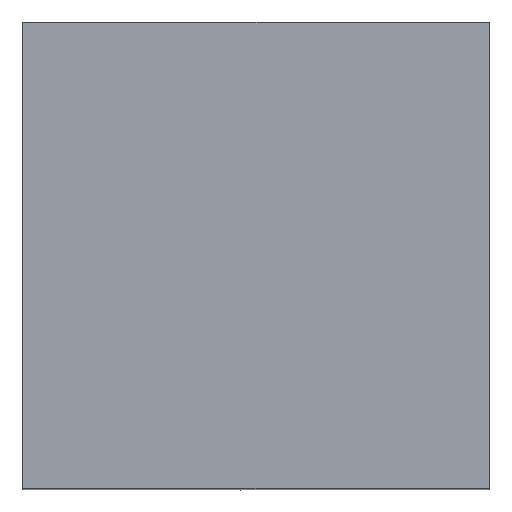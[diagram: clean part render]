
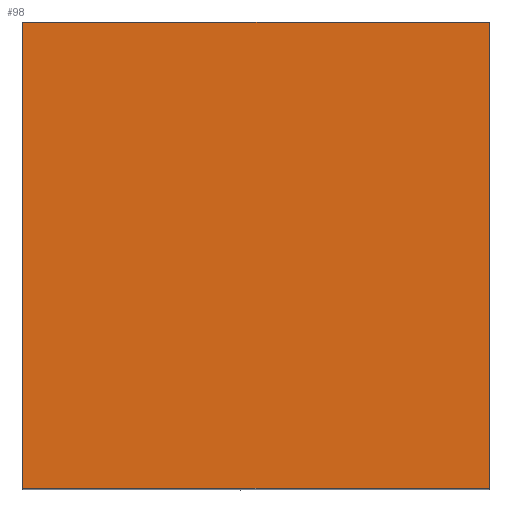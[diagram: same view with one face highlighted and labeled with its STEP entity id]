
A CAD part, top view. The second image highlights one B-rep face of the part: STEP entity #98.
In plain terms, the highlighted planar face has unit normal (0, 0, 1).
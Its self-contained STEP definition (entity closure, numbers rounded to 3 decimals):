
#98 = ADVANCED_FACE( '', ( #191 ), #192, .F. );
#191 = FACE_OUTER_BOUND( '', #349, .T. );
#192 = PLANE( '', #350 );
#349 = EDGE_LOOP( '', ( #704, #705, #706, #707 ) );
#350 = AXIS2_PLACEMENT_3D( '', #708, #709, #710 );
#704 = ORIENTED_EDGE( '', *, *, #878, .T. );
#705 = ORIENTED_EDGE( '', *, *, #879, .T. );
#706 = ORIENTED_EDGE( '', *, *, #880, .T. );
#707 = ORIENTED_EDGE( '', *, *, #881, .T. );
#708 = CARTESIAN_POINT( '', ( -6., -3., 3. ) );
#709 = DIRECTION( '', ( 0., 0., -1. ) );
#710 = DIRECTION( '', ( -1., 0., 0. ) );
#878 = EDGE_CURVE( '', #984, #986, #988, .T. );
#879 = EDGE_CURVE( '', #986, #989, #990, .T. );
#880 = EDGE_CURVE( '', #989, #991, #992, .T. );
#881 = EDGE_CURVE( '', #991, #984, #993, .T. );
#984 = VERTEX_POINT( '', #1262 );
#986 = VERTEX_POINT( '', #1265 );
#988 = LINE( '', #1268, #1269 );
#989 = VERTEX_POINT( '', #1270 );
#990 = LINE( '', #1271, #1272 );
#991 = VERTEX_POINT( '', #1273 );
#992 = LINE( '', #1274, #1275 );
#993 = LINE( '', #1276, #1277 );
#1262 = CARTESIAN_POINT( '', ( -6., -3., 3. ) );
#1265 = CARTESIAN_POINT( '', ( 0., -3., 3. ) );
#1268 = CARTESIAN_POINT( '', ( -6., -3., 3. ) );
#1269 = VECTOR( '', #1397, 1000. );
#1270 = CARTESIAN_POINT( '', ( 0., 3., 3. ) );
#1271 = CARTESIAN_POINT( '', ( 0., -3., 3. ) );
#1272 = VECTOR( '', #1398, 1000. );
#1273 = CARTESIAN_POINT( '', ( -6., 3., 3. ) );
#1274 = CARTESIAN_POINT( '', ( 0., 3., 3. ) );
#1275 = VECTOR( '', #1399, 1000. );
#1276 = CARTESIAN_POINT( '', ( -6., 3., 3. ) );
#1277 = VECTOR( '', #1400, 1000. );
#1397 = DIRECTION( '', ( 1., 0., 0. ) );
#1398 = DIRECTION( '', ( 0., 1., 0. ) );
#1399 = DIRECTION( '', ( -1., 0., 0. ) );
#1400 = DIRECTION( '', ( 0., -1., 0. ) );
